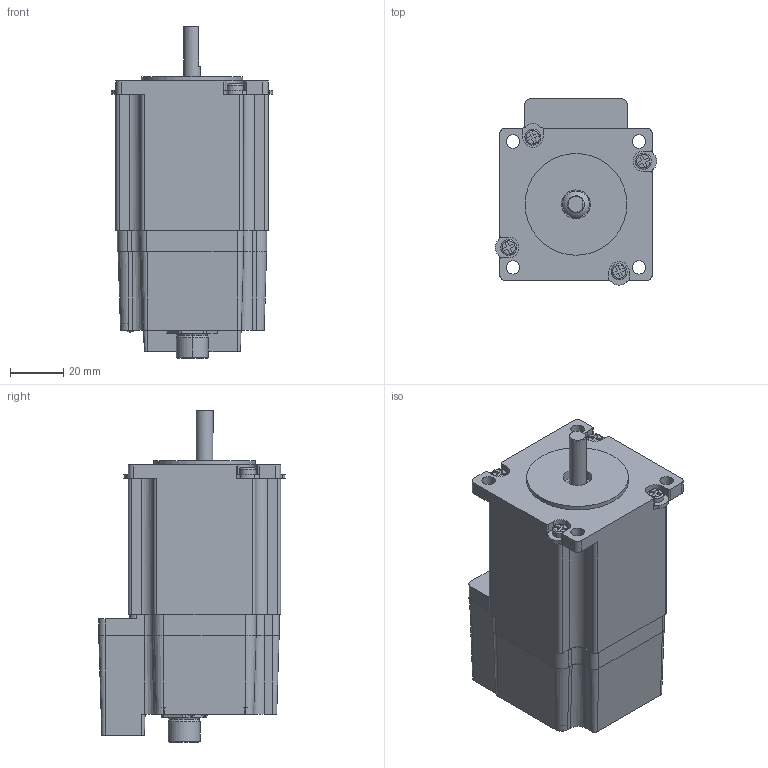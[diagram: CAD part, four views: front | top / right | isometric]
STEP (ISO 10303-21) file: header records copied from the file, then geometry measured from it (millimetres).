
FILE_DESCRIPTION(/* description */ ('Alibre Inc.'),/* implementation_level */ '2;1');
FILE_NAME(/* name */ 'export-F6F4F9C5-A692-475D-BD3F-ADB6DFCAB872',/* time_stamp */ '2025-12-10T13:46:04-05:00',/* author */ (''),/* organization */ (''),/* preprocessor_version */ 'ST-DEVELOPER v17',/* originating_system */ 'Alibre',/* authorisation */ '');
FILE_SCHEMA (('CONFIG_CONTROL_DESIGN'));
Length unit declared in the file: millimetre
Bounding box: 60.48 x 69.86 x 124.32 mm (x, y, z)
Volume: 281248 mm3; surface area: 38197.7 mm2
Topology: 1 solids, 23 shells, 675 faces, 1598 edges, 1038 vertices
Faces by surface type: plane 282, cylinder 247, bspline 64, cone 45, torus 32, sphere 5
Full cylindrical faces by diameter (mm): 1.1 x8, 2 x4, 2.156 x4, 2.87 x4, 2.92 x2, 3 x5, 3.556 x4, 5 x4, 5.44 x4, 6 x4, 6.35 x1, 7.938 x1, 8 x2, 10 x1, 10.795 x2, 12.7 x2, 23.495 x1, 26 x1, 38.1 x1
Entity records: 19656 total; most frequent: CARTESIAN_POINT 4883, ORIENTED_EDGE 2992, DIRECTION 2791, EDGE_CURVE 1496, AXIS2_PLACEMENT_3D 1174, VERTEX_POINT 1010, EDGE_LOOP 842, FACE_BOUND 842
